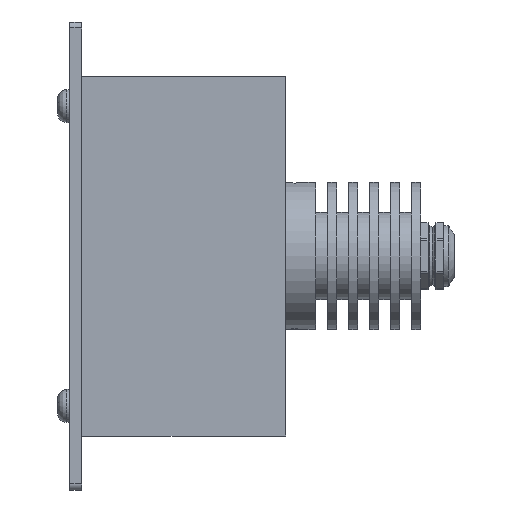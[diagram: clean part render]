
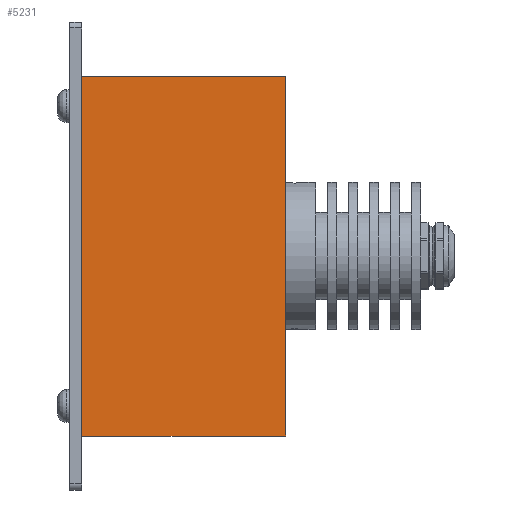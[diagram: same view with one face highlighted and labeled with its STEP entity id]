
A CAD part, left-side view. The second image highlights one B-rep face of the part: STEP entity #5231.
In plain terms, the highlighted planar face has unit normal (-1, 0, 0).
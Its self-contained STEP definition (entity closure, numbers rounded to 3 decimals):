
#504=LINE('',#9478,#873);
#518=LINE('',#9505,#887);
#519=LINE('',#9508,#888);
#520=LINE('',#9509,#889);
#873=VECTOR('',#7508,10.);
#887=VECTOR('',#7534,10.);
#888=VECTOR('',#7537,10.);
#889=VECTOR('',#7538,10.);
#1383=FACE_OUTER_BOUND('',#1817,.T.);
#1817=EDGE_LOOP('',(#4595,#4596,#4597,#4598));
#2557=VERTEX_POINT('',#9475);
#2558=VERTEX_POINT('',#9477);
#2565=VERTEX_POINT('',#9503);
#2566=VERTEX_POINT('',#9507);
#3235=EDGE_CURVE('',#2557,#2558,#504,.T.);
#3249=EDGE_CURVE('',#2565,#2558,#518,.T.);
#3250=EDGE_CURVE('',#2565,#2566,#519,.T.);
#3251=EDGE_CURVE('',#2566,#2557,#520,.T.);
#4595=ORIENTED_EDGE('',*,*,#3250,.F.);
#4596=ORIENTED_EDGE('',*,*,#3249,.T.);
#4597=ORIENTED_EDGE('',*,*,#3235,.F.);
#4598=ORIENTED_EDGE('',*,*,#3251,.F.);
#4885=PLANE('',#5907);
#5231=ADVANCED_FACE('',(#1383),#4885,.T.);
#5907=AXIS2_PLACEMENT_3D('',#9506,#7535,#7536);
#7508=DIRECTION('',(0.,0.,-1.));
#7534=DIRECTION('',(0.,-1.,0.));
#7535=DIRECTION('center_axis',(-1.,0.,0.));
#7536=DIRECTION('ref_axis',(0.,0.,
-1.));
#7537=DIRECTION('',(0.,0.,1.));
#7538=DIRECTION('',(0.,-1.,0.));
#9475=CARTESIAN_POINT('',(-169.5,-36.,0.));
#9477=CARTESIAN_POINT('',(-169.5,-36.,-60.));
#9478=CARTESIAN_POINT('',(-169.5,-36.,-15.));
#9503=CARTESIAN_POINT('',(-169.5,-2.,-60.));
#9505=CARTESIAN_POINT('',(-169.5,-2.,-60.));
#9506=CARTESIAN_POINT('Origin',(-169.5,-2.,0.));
#9507=CARTESIAN_POINT('',(-169.5,-2.,0.));
#9508=CARTESIAN_POINT('',(-169.5,-2.,-15.));
#9509=CARTESIAN_POINT('',(-169.5,-2.,0.));
